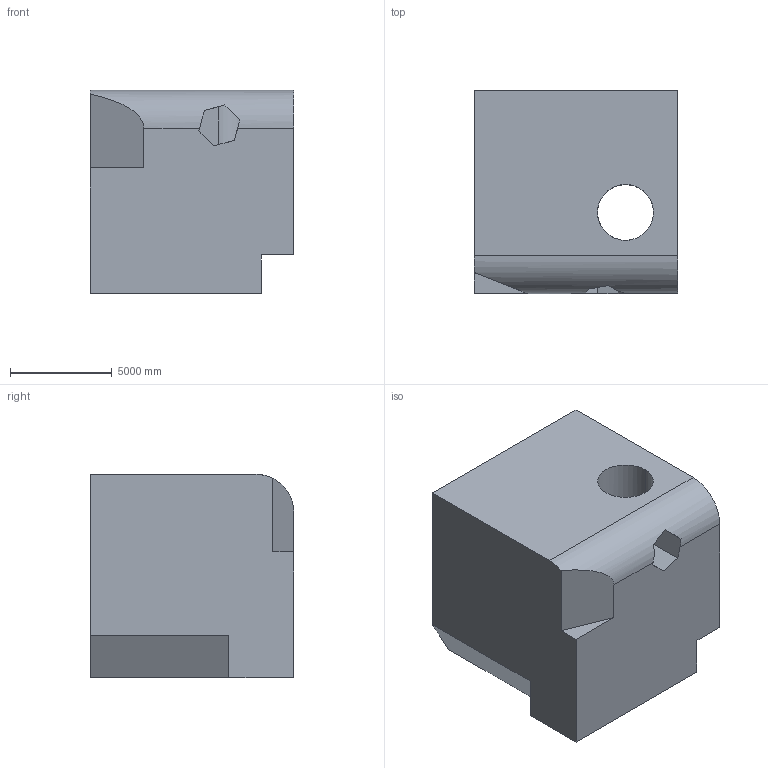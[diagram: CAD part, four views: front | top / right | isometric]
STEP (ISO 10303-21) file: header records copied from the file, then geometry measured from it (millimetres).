
FILE_DESCRIPTION (( 'STEP AP203' ), '1' );
FILE_NAME ('1624.STEP', '2022-08-19T11:08:16', ( 'user' ), ( '' ), 'SwSTEP 2.0', 'SolidWorks 2021', '' );
FILE_SCHEMA (( 'CONFIG_CONTROL_DESIGN' ));
Length unit declared in the file: centimetre
Products named in the file (1): 1624
Bounding box: 10000 x 10000 x 10000 mm (x, y, z)
Volume: 872126460962.9 mm3; surface area: 667333618.4 mm2
Topology: 1 solids, 1 shells, 30 faces, 93 edges, 62 vertices
Faces by surface type: plane 26, cylinder 4
Entity records: 1317 total; most frequent: CARTESIAN_POINT 432, ORIENTED_EDGE 186, DIRECTION 151, EDGE_CURVE 93, VECTOR 69, LINE 69, VERTEX_POINT 62, AXIS2_PLACEMENT_3D 41
